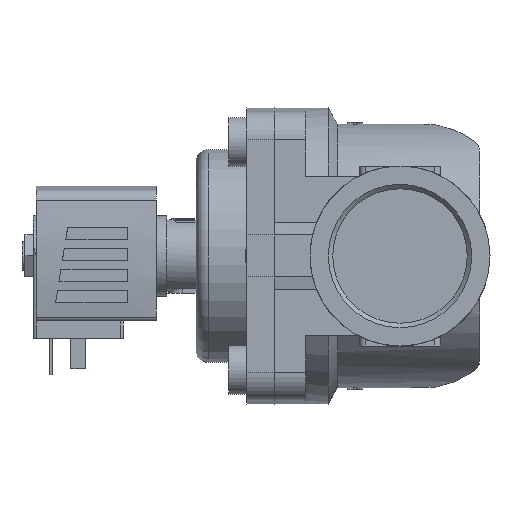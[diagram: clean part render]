
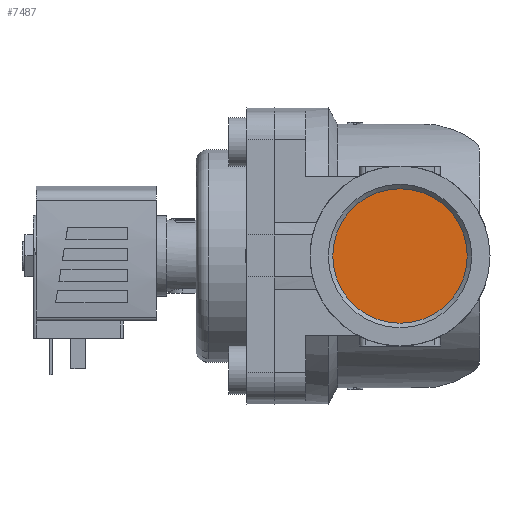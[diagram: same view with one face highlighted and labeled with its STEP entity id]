
A CAD part, left-side view. The second image highlights one B-rep face of the part: STEP entity #7487.
In plain terms, the highlighted planar face has unit normal (-1, 0, 0).
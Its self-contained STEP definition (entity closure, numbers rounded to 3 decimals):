
#2665=ORIENTED_EDGE('',*,*,#3862,.F.);
#3862=EDGE_CURVE('',#4566,#4566,#4903,.T.);
#4566=VERTEX_POINT('',#11600);
#4903=CIRCLE('',#8051,22.423);
#5226=EDGE_LOOP('',(#2665));
#5634=FACE_BOUND('',#5226,.T.);
#5928=PLANE('',#8052);
#7487=ADVANCED_FACE('',(#5634),#5928,.T.);
#8051=AXIS2_PLACEMENT_3D('',#11599,#9477,#9478);
#8052=AXIS2_PLACEMENT_3D('',#11601,#9479,#9480);
#9477=DIRECTION('',(1.,0.,0.));
#9478=DIRECTION('',(0.,0.,-1.));
#9479=DIRECTION('',(-1.,0.,0.));
#9480=DIRECTION('',(0.,0.,1.));
#11599=CARTESIAN_POINT('',(-38.,0.,0.));
#11600=CARTESIAN_POINT('',(-38.,0.,-22.423));
#11601=CARTESIAN_POINT('',(-38.,22.423,0.));
